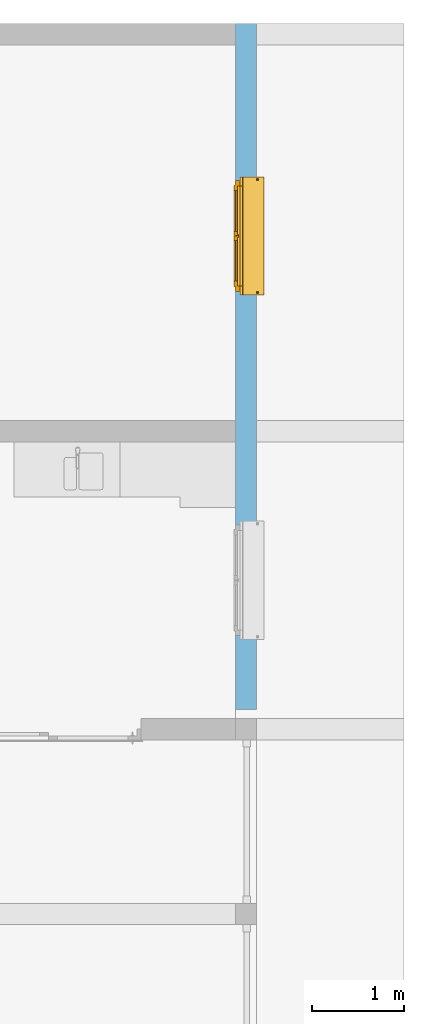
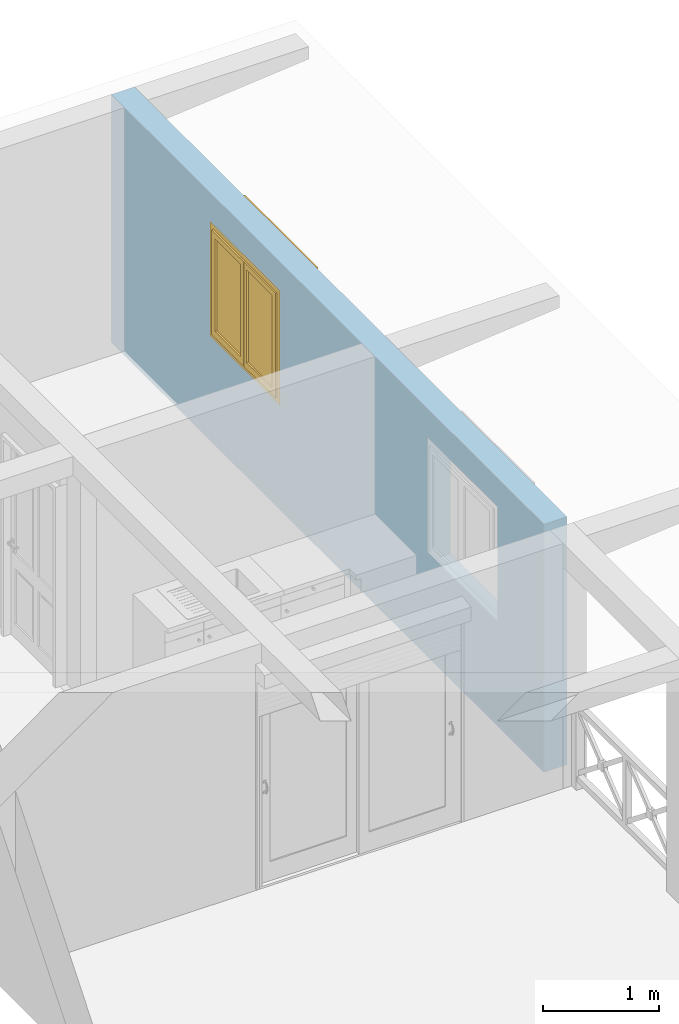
# One storey, part 9 of 13: 1 window, 2 openings, plus 1 element that does not belong to this part.
"""IFC2X3 building model written with IfcOpenShell, lengths in metres."""

from ifc_helpers import new_model, entity, si_unit, converted_unit, derived_unit, money_unit, direction, frame, origin_with_axes, place, context, subcontext, project, spatial, polyline, outline, extrude, boolean, faceted_brep, material, type_object, element, fill, save


model = new_model("IFC2X3")

# Units and contexts
model_context = context("Model", 3, precision=1e-05, world=origin_with_axes(), true_north=direction((0.0, 1.0)))
body_context = subcontext(model_context, "Body", "Model", "MODEL_VIEW")
ifc_project = project(units=[si_unit("LENGTHUNIT", "METRE"), si_unit("AREAUNIT", "SQUARE_METRE"), si_unit("VOLUMEUNIT", "CUBIC_METRE"), converted_unit("PLANEANGLEUNIT", "DEGREE", entity("IfcPlaneAngleMeasure", 0.0174532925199), si_unit("PLANEANGLEUNIT", "RADIAN"), dimensions=[0, 0, 0, 0, 0, 0, 0]), si_unit("SOLIDANGLEUNIT", "STERADIAN"), money_unit("CHF"), converted_unit("TIMEUNIT", "Year", entity("IfcTimeMeasure", 31556926.0), si_unit("TIMEUNIT", "SECOND"), dimensions=[0, 0, 1, 0, 0, 0, 0]), si_unit("MASSUNIT", "GRAM", prefix="KILO"), si_unit("THERMODYNAMICTEMPERATUREUNIT", "DEGREE_CELSIUS"), si_unit("LUMINOUSINTENSITYUNIT", "LUMEN"), si_unit("ENERGYUNIT", "JOULE", prefix="MEGA"), derived_unit("THERMALCONDUCTANCEUNIT", [(si_unit("POWERUNIT", "WATT"), 1), (si_unit("LENGTHUNIT", "METRE"), -1), (si_unit("THERMODYNAMICTEMPERATUREUNIT", "KELVIN"), -1)]), derived_unit("SPECIFICHEATCAPACITYUNIT", [(si_unit("ENERGYUNIT", "JOULE"), 1), (si_unit("MASSUNIT", "GRAM", prefix="KILO"), -1), (si_unit("THERMODYNAMICTEMPERATUREUNIT", "KELVIN"), -1)]), derived_unit("MASSDENSITYUNIT", [(si_unit("MASSUNIT", "GRAM", prefix="KILO"), 1), (si_unit("VOLUMEUNIT", "CUBIC_METRE"), -1)])], contexts=[model_context])

# Site, building, storey
site_placement = place(None, origin_with_axes())
site = spatial("IfcSite", under=ifc_project, at=site_placement, Name="Site", CompositionType="ELEMENT")
building_placement = place(site_placement, origin_with_axes())
building = spatial("IfcBuilding", under=site, at=building_placement, Name="Bâtiment", CompositionType="ELEMENT")
storey_placement = place(building_placement, origin_with_axes())
storey = spatial("IfcBuildingStorey", under=building, at=storey_placement, Name="SOUS-SOL", CompositionType="ELEMENT", Elevation=0.0)

# Wall, openings, window
ifc_material = material(Name="Hachure solide 2628782308")
wall_type = type_object("IfcWallType", Name="Hachure solide 2628782308 230", PredefinedType="NOTDEFINED")
wall_placement = place(storey_placement, frame((94.9655190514, 11.0503410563, -2.79), z_axis=(0.0, 0.0, 1.0), x_axis=(0.0, 1.0, 0.0)))
wall = element("IfcWall", 1, at=wall_placement, inside=storey, type_object=wall_type, material=ifc_material, Name="MurExt-005", context=body_context, shape_type="CSG", body=[
    boolean("DIFFERENCE", extrude(outline(polyline([(0.0, 0.0), (7.76, 0.0), (7.76, 0.23), (0.0, 0.23), (0.0, 0.0)])), origin_with_axes(), (0.0, 0.0, 1.0), 2.6), faceted_brep([(0.33, 0.0, 0.0), (0.33, 0.0, 2.6), (0.0, 0.0, 2.6), (0.0, 0.0, 0.0), (0.33, 0.23, 2.6), (0.33, 0.23, 0.0), (0.0, 0.23, 2.6), (0.0, 0.23, 0.0)], [[[0, 1, 2, 3]], [[4, 1, 0, 5]], [[1, 4, 6, 2]], [[6, 7, 3, 2]], [[5, 0, 3, 7]], [[4, 5, 7, 6]]])),
])
opening_1_placement = place(wall_placement, frame((1.73, 0.0, 1.1), z_axis=(0.0, 0.0, 1.0), x_axis=(1.0, 0.0, 0.0)))
element("IfcOpeningElement", 2, at=opening_1_placement, cuts=wall, Name="Fen-009", context=body_context, shape_type="SweptSolid", body=[
    extrude(outline(polyline([(0.6, 0.0), (-0.6, 0.0), (-0.6, -0.9), (0.0, 0.0), (0.6, -0.9), (0.6, 0.0)])), frame((0.0, 0.23, 0.0), z_axis=(0.0, -1.0, 0.0), x_axis=(-1.0, 0.0, 0.0)), (0.0, 0.0, 1.0), 0.46),
    extrude(outline(polyline([(-0.6, -1.2), (0.6, -1.2), (0.6, 0.0), (-0.6, 0.0), (-0.6, -1.2)])), frame((0.0, 0.23, 0.0), z_axis=(0.0, -1.0, 0.0), x_axis=(-1.0, 0.0, 0.0)), (0.0, 0.0, 1.0), 0.46),
    extrude(outline(polyline([(0.6, -0.1), (0.6, 0.001), (-0.6, 0.001), (-0.6, -0.1), (0.6, -0.1)])), frame((0.0, 0.18, 0.0), z_axis=(0.0, 1.0, 0.0), x_axis=(-1.0, 0.0, 0.0)), (0.0, 0.0, -1.0), 0.23),
])
opening_2_placement = place(wall_placement, frame((5.46014193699, 0.0, 1.1), z_axis=(0.0, 0.0, 1.0), x_axis=(1.0, 0.0, 0.0)))
opening_2 = element("IfcOpeningElement", 3, at=opening_2_placement, cuts=wall, Name="Fen-009", context=body_context, shape_type="SweptSolid", body=[
    extrude(outline(polyline([(0.6, 0.0), (-0.6, 0.0), (-0.6, -0.9), (0.0, 0.0), (0.6, -0.9), (0.6, 0.0)])), frame((0.0, 0.23, 0.0), z_axis=(0.0, 1.0, 0.0), x_axis=(1.0, 0.0, 0.0)), (0.0, 0.0, -1.0), 0.46),
    extrude(outline(polyline([(-0.6, -1.2), (0.6, -1.2), (0.6, 0.0), (-0.6, 0.0), (-0.6, -1.2)])), frame((0.0, 0.23, 0.0), z_axis=(0.0, 1.0, 0.0), x_axis=(1.0, 0.0, 0.0)), (0.0, 0.0, -1.0), 0.46),
    extrude(outline(polyline([(0.6, -0.1), (0.6, 0.001), (-0.6, 0.001), (-0.6, -0.1), (0.6, -0.1)])), frame((0.0, 0.18, 0.0), z_axis=(0.0, -1.0, 0.0), x_axis=(1.0, 0.0, 0.0)), (0.0, 0.0, 1.0), 0.23),
])
window_style = type_object("IfcWindowStyle", Name="Fenêtre 2v", ConstructionType="NOTDEFINED", OperationType="NOTDEFINED", ParameterTakesPrecedence=False, Sizeable=False)
window_placement = place(opening_2_placement, frame((0.6, 0.0, 0.0), z_axis=(0.0, 0.0, 1.0), x_axis=(-1.0, 0.0, 0.0)))
window = element("IfcWindow", 4, at=window_placement, inside=storey, type_object=window_style, Name="Fen-009", OverallHeight=1.2, OverallWidth=1.2, context=body_context, shape_type="Brep", body=[
    faceted_brep([(1.2, -0.23, 0.0), (1.14, -0.23, 0.0), (1.14, -0.18, 0.0), (1.2, -0.18, 0.0), (1.2, -0.23, 1.2), (0.0, -0.23, 1.2), (0.0, -0.23, 0.0), (0.06, -0.23, 0.0), (0.06, -0.23, 1.14), (1.14, -0.23, 1.14), (1.14, -0.18, 1.14), (0.06, -0.18, 1.14), (0.06, -0.18, 0.0), (0.0, -0.18, 0.0), (0.0, -0.18, 1.2), (1.2, -0.18, 1.2)], [[[0, 1, 2, 3]], [[0, 4, 5, 6, 7, 8, 9, 1]], [[1, 9, 10, 2]], [[3, 2, 10, 11, 12, 13, 14, 15]], [[4, 0, 3, 15]], [[5, 4, 15, 14]], [[6, 5, 14, 13]], [[7, 6, 13, 12]], [[8, 7, 12, 11]], [[9, 8, 11, 10]]]),
    faceted_brep([(0.06, -0.23, 0.0), (0.06, -0.23, 0.06), (0.06, -0.18, 0.06), (0.06, -0.18, 0.0), (1.14, -0.23, 0.0), (1.14, -0.23, 0.06), (1.14, -0.18, 0.06), (1.14, -0.18, 0.0)], [[[0, 1, 2, 3]], [[0, 4, 5, 1]], [[1, 5, 6, 2]], [[3, 2, 6, 7]], [[4, 0, 3, 7]], [[5, 4, 7, 6]]]),
    faceted_brep([(0.06, -0.15, 0.0), (0.06, -0.18, 0.0), (0.06, -0.18, 0.04), (0.06, -0.15, 0.02), (1.14, -0.15, 0.0), (1.14, -0.18, 0.0), (1.14, -0.18, 0.04), (1.14, -0.15, 0.02)], [[[0, 1, 2, 3]], [[0, 4, 5, 1]], [[1, 5, 6, 2]], [[3, 2, 6, 7]], [[4, 0, 3, 7]], [[5, 4, 7, 6]]]),
    faceted_brep([(0.65, -0.2275, 0.12), (1.09, -0.2275, 0.12), (1.09, -0.2275, 1.0899), (0.65, -0.2275, 1.0899), (0.65, -0.2225, 0.12), (1.09, -0.2225, 0.12), (1.09, -0.2225, 1.0899), (0.65, -0.2225, 1.0899)], [[[0, 1, 2, 3]], [[4, 5, 1, 0]], [[6, 2, 1, 5]], [[3, 2, 6, 7]], [[7, 4, 0, 3]], [[7, 6, 5, 4]]]),
    faceted_brep([(0.55, -0.2225, 1.0899), (0.11, -0.2225, 1.0899), (0.11, -0.2275, 1.0899), (0.55, -0.2275, 1.0899), (0.55, -0.2225, 0.12), (0.11, -0.2225, 0.12), (0.11, -0.2275, 0.12), (0.55, -0.2275, 0.12)], [[[0, 1, 2, 3]], [[4, 5, 1, 0]], [[5, 6, 2, 1]], [[3, 2, 6, 7]], [[7, 4, 0, 3]], [[7, 6, 5, 4]]]),
    faceted_brep([(0.55, -0.245, 1.091), (0.5975, -0.245, 1.091), (0.5975, -0.245, 1.14), (0.6025, -0.245, 1.14), (0.6025, -0.245, 1.091), (0.65, -0.245, 1.091), (0.65, -0.245, 1.0899), (1.09, -0.245, 1.0899), (1.09, -0.245, 0.12), (1.148, -0.245, 0.12), (1.148, -0.245, 1.1479), (0.052, -0.245, 1.1479), (0.052, -0.245, 0.12), (0.11, -0.245, 0.12), (0.11, -0.245, 1.0899), (0.55, -0.245, 1.0899), (0.55, -0.205, 1.091), (0.5975, -0.205, 1.091), (0.5975, -0.205, 1.1399), (0.5975, -0.23, 1.1399), (0.5975, -0.23, 1.14), (0.6025, -0.23, 1.14), (0.6025, -0.23, 1.1399), (0.6025, -0.205, 1.1399), (0.6025, -0.205, 1.091), (0.65, -0.205, 1.091), (0.65, -0.205, 1.0899), (1.09, -0.205, 1.0899), (1.09, -0.205, 0.12), (1.14, -0.205, 0.12), (1.14, -0.23, 0.12), (1.15, -0.23, 0.12), (1.15, -0.23, 1.1499), (0.05, -0.23, 1.1499), (0.05, -0.23, 0.12), (0.06, -0.205, 0.12), (0.11, -0.205, 0.12), (0.06, -0.23, 0.12), (0.11, -0.205, 1.0899), (0.55, -0.205, 1.0899), (0.06, -0.205, 1.1399), (0.06, -0.23, 1.1399), (1.14, -0.23, 1.1399), (1.14, -0.205, 1.1399)], [[[0, 1, 2, 3, 4, 5, 6, 7, 8, 9, 10, 11, 12, 13, 14, 15]], [[0, 16, 17, 1]], [[17, 18, 19, 20, 2, 1]], [[3, 2, 20, 21]], [[4, 3, 21, 22, 23, 24]], [[24, 25, 5, 4]], [[5, 25, 26, 6]], [[26, 27, 7, 6]], [[28, 8, 7, 27]], [[29, 30, 31, 9, 8, 28]], [[9, 31, 32, 10]], [[10, 32, 33, 11]], [[11, 33, 34, 12]], [[35, 36, 13, 12, 34, 37]], [[38, 14, 13, 36]], [[15, 14, 38, 39]], [[15, 39, 16, 0]], [[16, 39, 38, 36, 35, 40, 18, 17]], [[19, 18, 40, 41]], [[41, 37, 34, 33, 32, 31, 30, 42, 22, 21, 20, 19]], [[23, 22, 42, 43]], [[25, 24, 23, 43, 29, 28, 27, 26]], [[30, 29, 43, 42]], [[41, 40, 35, 37]]]),
    faceted_brep([(0.06, -0.23, 0.12), (0.05, -0.23, 0.12), (0.052, -0.245, 0.12), (0.06, -0.245, 0.12), (0.06, -0.23, 0.06), (0.5975, -0.23, 0.06), (0.5975, -0.23, 0.05), (0.05, -0.23, 0.05), (0.052, -0.245, 0.052), (0.06, -0.245, 0.06), (0.5975, -0.245, 0.052), (0.5975, -0.245, 0.06)], [[[0, 1, 2, 3]], [[4, 5, 6, 7, 1, 0]], [[2, 1, 7, 8]], [[9, 3, 2, 8, 10, 11]], [[9, 4, 0, 3]], [[11, 5, 4, 9]], [[11, 10, 6, 5]], [[6, 10, 8, 7]]]),
    faceted_brep([(0.6025, -0.23, 0.06), (0.6025, -0.23, 0.05), (0.6025, -0.245, 0.052), (0.6025, -0.245, 0.06), (1.14, -0.23, 0.06), (1.14, -0.23, 0.12), (1.15, -0.23, 0.12), (1.15, -0.23, 0.05), (1.148, -0.245, 0.052), (1.14, -0.245, 0.06), (1.148, -0.245, 0.12), (1.14, -0.245, 0.12)], [[[0, 1, 2, 3]], [[4, 5, 6, 7, 1, 0]], [[2, 1, 7, 8]], [[9, 3, 2, 8, 10, 11]], [[9, 4, 0, 3]], [[5, 4, 9, 11]], [[11, 10, 6, 5]], [[8, 7, 6, 10]]]),
    faceted_brep([(0.55, -0.205, 0.12), (0.11, -0.205, 0.12), (0.11, -0.245, 0.12), (0.55, -0.245, 0.12), (0.55, -0.205, 0.119), (0.5975, -0.205, 0.119), (0.5975, -0.205, 0.06), (0.06, -0.205, 0.06), (0.06, -0.205, 0.12), (0.06, -0.245, 0.12), (0.55, -0.245, 0.119), (0.06, -0.245, 0.06), (0.5975, -0.245, 0.06), (0.5975, -0.245, 0.119)], [[[0, 1, 2, 3]], [[4, 5, 6, 7, 8, 1, 0]], [[1, 8, 9, 2]], [[10, 3, 2, 9, 11, 12, 13]], [[10, 4, 0, 3]], [[13, 5, 4, 10]], [[13, 12, 6, 5]], [[6, 12, 11, 7]], [[8, 7, 11, 9]]]),
    faceted_brep([(0.6025, -0.205, 0.119), (0.6025, -0.205, 0.06), (0.6025, -0.245, 0.06), (0.6025, -0.245, 0.119), (0.65, -0.205, 0.119), (0.65, -0.205, 0.12), (1.09, -0.205, 0.12), (1.14, -0.205, 0.12), (1.14, -0.205, 0.06), (1.14, -0.245, 0.06), (0.65, -0.245, 0.119), (1.14, -0.245, 0.12), (1.09, -0.245, 0.12), (0.65, -0.245, 0.12)], [[[0, 1, 2, 3]], [[4, 5, 6, 7, 8, 1, 0]], [[2, 1, 8, 9]], [[10, 3, 2, 9, 11, 12, 13]], [[10, 4, 0, 3]], [[5, 4, 10, 13]], [[13, 12, 11, 7, 6, 5]], [[8, 7, 11, 9]]]),
    faceted_brep([(0.6025, -0.245, 0.119), (0.65, -0.245, 0.119), (0.65, -0.245, 1.091), (0.6025, -0.245, 1.091), (0.6025, -0.205, 0.119), (0.65, -0.205, 0.119), (0.65, -0.205, 1.091), (0.6025, -0.205, 1.091)], [[[0, 1, 2, 3]], [[4, 5, 1, 0]], [[6, 2, 1, 5]], [[3, 2, 6, 7]], [[7, 4, 0, 3]], [[7, 6, 5, 4]]]),
    faceted_brep([(0.5975, -0.205, 1.091), (0.55, -0.205, 1.091), (0.55, -0.245, 1.091), (0.5975, -0.245, 1.091), (0.5975, -0.205, 0.119), (0.55, -0.205, 0.119), (0.55, -0.245, 0.119), (0.5975, -0.245, 0.119)], [[[0, 1, 2, 3]], [[4, 5, 1, 0]], [[5, 6, 2, 1]], [[3, 2, 6, 7]], [[7, 4, 0, 3]], [[7, 6, 5, 4]]]),
    faceted_brep([(0.616666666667, -0.205, 0.06), (0.583333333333, -0.205, 0.06), (0.583333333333, -0.195, 0.06), (0.616666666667, -0.195, 0.06), (0.616666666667, -0.205, 1.14), (0.583333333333, -0.205, 1.14), (0.583333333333, -0.195, 1.14), (0.616666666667, -0.195, 1.14)], [[[0, 1, 2, 3]], [[0, 4, 5, 1]], [[1, 5, 6, 2]], [[3, 2, 6, 7]], [[4, 0, 3, 7]], [[5, 4, 7, 6]]]),
    faceted_brep([(1.24, -0.18, -0.1), (1.24, -0.18, 0.0), (-0.04, -0.18, 0.0), (-0.04, -0.18, -0.1), (1.24, 0.06, -0.1), (1.24, 0.06, -0.094), (1.24, 0.07, -0.094), (1.24, 0.07, -0.1), (1.24, 0.08, -0.1), (1.24, 0.08, -0.06), (1.24, -0.13, -0.02), (1.24, -0.134126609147, -0.0188422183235), (1.24, -0.13799671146, -0.0170005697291), (1.24, -0.141497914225, -0.014528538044), (1.24, -0.144528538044, -0.0114979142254), (1.24, -0.147000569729, -0.00799671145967), (1.24, -0.148842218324, -0.00412660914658), (1.24, -0.15, 0.0), (-0.04, -0.15, 0.0), (-0.04, -0.148842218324, -0.00412660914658), (-0.04, -0.147000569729, -0.00799671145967), (-0.04, -0.144528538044, -0.0114979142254), (-0.04, -0.141497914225, -0.014528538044), (-0.04, -0.13799671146, -0.0170005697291), (-0.04, -0.134126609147, -0.0188422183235), (-0.04, -0.13, -0.02), (-0.04, 0.08, -0.06), (-0.04, 0.08, -0.1), (-0.04, 0.07, -0.1), (-0.04, 0.07, -0.094), (-0.04, 0.06, -0.094), (-0.04, 0.06, -0.1)], [[[0, 1, 2, 3]], [[0, 4, 5, 6, 7, 8, 9, 10, 11, 12, 13, 14, 15, 16, 17, 1]], [[1, 17, 18, 2]], [[3, 2, 18, 19, 20, 21, 22, 23, 24, 25, 26, 27, 28, 29, 30, 31]], [[4, 0, 3, 31]], [[5, 4, 31, 30]], [[6, 5, 30, 29]], [[7, 6, 29, 28]], [[8, 7, 28, 27]], [[9, 8, 27, 26]], [[10, 9, 26, 25]], [[11, 10, 25, 24]], [[12, 11, 24, 23]], [[13, 12, 23, 22]], [[14, 13, 22, 21]], [[15, 14, 21, 20]], [[16, 15, 20, 19]], [[17, 16, 19, 18]]]),
    faceted_brep([(-0.025, 0.0, 1.35), (-0.025, 0.0, 1.2), (-0.022, 0.0, 1.2), (-0.022, 0.0, 1.35), (-0.025, 0.13, 1.33862647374), (-0.025, 0.13, 1.18), (-0.025, 0.127, 1.18), (-0.025, 0.021, 1.18), (-0.025, 0.021, 1.2), (-0.022, 0.021, 1.2), (-0.022, 0.021, 1.18), (-0.022, 0.127, 1.18), (-0.022, 0.13, 1.18), (-0.022, 0.13, 1.33862647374)], [[[0, 1, 2, 3]], [[0, 4, 5, 6, 7, 8, 1]], [[1, 8, 9, 2]], [[3, 2, 9, 10, 11, 12, 13]], [[4, 0, 3, 13]], [[5, 4, 13, 12]], [[6, 5, 12, 11]], [[7, 6, 11, 10]], [[8, 7, 10, 9]]]),
    faceted_brep([(1.222, 0.018, 1.203), (1.222, 0.127, 1.203), (-0.022, 0.127, 1.203), (-0.022, 0.018, 1.203), (1.222, 0.018, 1.2), (1.222, 0.127, 1.2), (1.222, 0.127, 1.18), (1.222, 0.13, 1.18), (1.222, 0.13, 1.33862647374), (1.222, 0.0, 1.35), (1.222, 0.0, 1.34698854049), (1.222, 0.127, 1.33587748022), (-0.022, 0.127, 1.33587748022), (-0.022, 0.0, 1.34698854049), (-0.022, 0.0, 1.35), (-0.022, 0.13, 1.33862647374), (-0.022, 0.13, 1.18), (-0.022, 0.127, 1.18), (-0.022, 0.127, 1.2), (-0.022, 0.018, 1.2)], [[[0, 1, 2, 3]], [[4, 5, 6, 7, 8, 9, 10, 11, 1, 0]], [[12, 2, 1, 11]], [[3, 2, 12, 13, 14, 15, 16, 17, 18, 19]], [[19, 4, 0, 3]], [[19, 18, 5, 4]], [[6, 5, 18, 17]], [[7, 6, 17, 16]], [[8, 7, 16, 15]], [[9, 8, 15, 14]], [[13, 10, 9, 14]], [[13, 12, 11, 10]]]),
    faceted_brep([(1.222, 0.0, 1.35), (1.222, 0.0, 1.2), (1.225, 0.0, 1.2), (1.225, 0.0, 1.35), (1.222, 0.13, 1.33862647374), (1.222, 0.13, 1.18), (1.222, 0.127, 1.18), (1.222, 0.021, 1.18), (1.222, 0.021, 1.2), (1.225, 0.021, 1.2), (1.225, 0.021, 1.18), (1.225, 0.127, 1.18), (1.225, 0.13, 1.18), (1.225, 0.13, 1.33862647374)], [[[0, 1, 2, 3]], [[0, 4, 5, 6, 7, 8, 1]], [[1, 8, 9, 2]], [[3, 2, 9, 10, 11, 12, 13]], [[4, 0, 3, 13]], [[5, 4, 13, 12]], [[6, 5, 12, 11]], [[7, 6, 11, 10]], [[8, 7, 10, 9]]]),
    faceted_brep([(0.0, 0.021, 1.18), (0.0, 0.021, 0.0), (-0.025, 0.021, 0.0), (-0.025, 0.021, 1.18), (0.0, 0.018, 1.18), (0.0, 0.018, 0.0), (-0.022, 0.018, 0.0), (-0.022, 0.003, 0.0), (0.0, 0.003, 0.0), (0.0, 0.0, 0.0), (-0.025, 0.0, 0.0), (-0.025, 0.0, 1.18), (0.0, 0.0, 1.18), (0.0, 0.003, 1.18), (-0.022, 0.003, 1.18), (-0.022, 0.018, 1.18)], [[[0, 1, 2, 3]], [[4, 5, 1, 0]], [[1, 5, 6, 7, 8, 9, 10, 2]], [[3, 2, 10, 11]], [[0, 3, 11, 12, 13, 14, 15, 4]], [[15, 6, 5, 4]], [[14, 7, 6, 15]], [[13, 8, 7, 14]], [[12, 9, 8, 13]], [[11, 10, 9, 12]]]),
    faceted_brep([(0.0, 0.003, 0.003), (0.0, 0.003, 0.0), (0.0, 0.018, 0.0), (0.0, 0.018, 0.003), (-0.022, 0.003, 0.003), (-0.022, 0.003, 0.0), (-0.022, 0.018, 0.0), (-0.022, 0.018, 0.003)], [[[0, 1, 2, 3]], [[4, 5, 1, 0]], [[1, 5, 6, 2]], [[3, 2, 6, 7]], [[0, 3, 7, 4]], [[7, 6, 5, 4]]]),
    faceted_brep([(0.0, 0.021, 1.2), (0.0, 0.021, 1.18), (-0.025, 0.021, 1.18), (-0.025, 0.021, 1.2), (0.0, 0.018, 1.2), (0.0, 0.018, 1.18), (-0.022, 0.018, 1.18), (-0.022, 0.003, 1.18), (0.0, 0.003, 1.18), (0.0, 0.0, 1.18), (-0.025, 0.0, 1.18), (-0.025, 0.0, 1.2), (0.0, 0.0, 1.2), (0.0, 0.003, 1.2), (-0.022, 0.003, 1.2), (-0.022, 0.018, 1.2)], [[[0, 1, 2, 3]], [[4, 5, 1, 0]], [[1, 5, 6, 7, 8, 9, 10, 2]], [[3, 2, 10, 11]], [[0, 3, 11, 12, 13, 14, 15, 4]], [[15, 6, 5, 4]], [[14, 7, 6, 15]], [[13, 8, 7, 14]], [[12, 9, 8, 13]], [[11, 10, 9, 12]]]),
    faceted_brep([(1.2, 0.021, 1.18), (1.225, 0.021, 1.18), (1.225, 0.021, 0.0), (1.2, 0.021, 0.0), (1.2, 0.018, 1.18), (1.222, 0.018, 1.18), (1.222, 0.003, 1.18), (1.2, 0.003, 1.18), (1.2, 0.0, 1.18), (1.225, 0.0, 1.18), (1.225, 0.0, 0.0), (1.2, 0.0, 0.0), (1.2, 0.003, 0.0), (1.222, 0.003, 0.0), (1.222, 0.018, 0.0), (1.2, 0.018, 0.0)], [[[0, 1, 2, 3]], [[0, 4, 5, 6, 7, 8, 9, 1]], [[1, 9, 10, 2]], [[3, 2, 10, 11, 12, 13, 14, 15]], [[4, 0, 3, 15]], [[5, 4, 15, 14]], [[6, 5, 14, 13]], [[7, 6, 13, 12]], [[8, 7, 12, 11]], [[9, 8, 11, 10]]]),
    faceted_brep([(1.2, 0.003, 0.003), (1.2, 0.018, 0.003), (1.2, 0.018, 0.0), (1.2, 0.003, 0.0), (1.222, 0.003, 0.003), (1.222, 0.018, 0.003), (1.222, 0.018, 0.0), (1.222, 0.003, 0.0)], [[[0, 1, 2, 3]], [[0, 4, 5, 1]], [[1, 5, 6, 2]], [[3, 2, 6, 7]], [[4, 0, 3, 7]], [[5, 4, 7, 6]]]),
    faceted_brep([(1.2, 0.021, 1.2), (1.225, 0.021, 1.2), (1.225, 0.021, 1.18), (1.2, 0.021, 1.18), (1.2, 0.018, 1.2), (1.222, 0.018, 1.2), (1.222, 0.003, 1.2), (1.2, 0.003, 1.2), (1.2, 0.0, 1.2), (1.225, 0.0, 1.2), (1.225, 0.0, 1.18), (1.2, 0.0, 1.18), (1.2, 0.003, 1.18), (1.222, 0.003, 1.18), (1.222, 0.018, 1.18), (1.2, 0.018, 1.18)], [[[0, 1, 2, 3]], [[0, 4, 5, 6, 7, 8, 9, 1]], [[1, 9, 10, 2]], [[3, 2, 10, 11, 12, 13, 14, 15]], [[4, 0, 3, 15]], [[5, 4, 15, 14]], [[6, 5, 14, 13]], [[7, 6, 13, 12]], [[8, 7, 12, 11]], [[9, 8, 11, 10]]]),
    faceted_brep([(-0.022, 0.0113089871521, 1.26006647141), (-0.022, 0.0105, 1.26931323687), (-0.022, 0.0113089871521, 1.27856000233), (-0.022, 0.0137113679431, 1.2875258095), (-0.022, 0.0176341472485, 1.29593823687), (-0.022, 0.0229581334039, 1.30354167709), (-0.022, 0.0295215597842, 1.31010510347), (-0.022, 0.037125, 1.31542908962), (-0.022, 0.0455374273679, 1.31935186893), (-0.022, 0.0545032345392, 1.32175424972), (-0.022, 0.06375, 1.32256323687), (-0.022, 0.0729967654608, 1.32175424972), (-0.022, 0.0819625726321, 1.31935186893), (-0.022, 0.090375, 1.31542908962), (-0.022, 0.0979784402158, 1.31010510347), (-0.022, 0.104541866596, 1.30354167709), (-0.022, 0.109865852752, 1.29593823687), (-0.022, 0.113788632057, 1.2875258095), (-0.022, 0.116191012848, 1.27856000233), (-0.022, 0.117, 1.26931323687), (-0.022, 0.116191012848, 1.26006647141), (-0.022, 0.113788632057, 1.25110066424), (-0.022, 0.109865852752, 1.24268823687), (-0.022, 0.104541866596, 1.23508479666), (-0.022, 0.0979784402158, 1.22852137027), (-0.022, 0.090375, 1.22319738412), (-0.022, 0.0819625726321, 1.21927460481), (-0.022, 0.0729967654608, 1.21687222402), (-0.022, 0.06375, 1.21606323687), (-0.022, 0.0545032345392, 1.21687222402), (-0.022, 0.0455374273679, 1.21927460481), (-0.022, 0.037125, 1.22319738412), (-0.022, 0.0295215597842, 1.22852137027), (-0.022, 0.0229581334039, 1.23508479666), (-0.022, 0.0176341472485, 1.24268823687), (-0.022, 0.0137113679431, 1.25110066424), (1.222, 0.0113089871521, 1.26006647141), (1.222, 0.0105, 1.26931323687), (1.222, 0.0113089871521, 1.27856000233), (1.222, 0.0137113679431, 1.2875258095), (1.222, 0.0176341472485, 1.29593823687), (1.222, 0.0229581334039, 1.30354167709), (1.222, 0.0295215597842, 1.31010510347), (1.222, 0.037125, 1.31542908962), (1.222, 0.0455374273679, 1.31935186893), (1.222, 0.0545032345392, 1.32175424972), (1.222, 0.06375, 1.32256323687), (1.222, 0.0729967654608, 1.32175424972), (1.222, 0.0819625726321, 1.31935186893), (1.222, 0.090375, 1.31542908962), (1.222, 0.0979784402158, 1.31010510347), (1.222, 0.104541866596, 1.30354167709), (1.222, 0.109865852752, 1.29593823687), (1.222, 0.113788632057, 1.2875258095), (1.222, 0.116191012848, 1.27856000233), (1.222, 0.117, 1.26931323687), (1.222, 0.116191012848, 1.26006647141), (1.222, 0.113788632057, 1.25110066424), (1.222, 0.109865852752, 1.24268823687), (1.222, 0.104541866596, 1.23508479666), (1.222, 0.0979784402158, 1.22852137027), (1.222, 0.090375, 1.22319738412), (1.222, 0.0819625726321, 1.21927460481), (1.222, 0.0729967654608, 1.21687222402), (1.222, 0.06375, 1.21606323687), (1.222, 0.0545032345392, 1.21687222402), (1.222, 0.0455374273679, 1.21927460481), (1.222, 0.037125, 1.22319738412), (1.222, 0.0295215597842, 1.22852137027), (1.222, 0.0229581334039, 1.23508479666), (1.222, 0.0176341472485, 1.24268823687), (1.222, 0.0137113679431, 1.25110066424)], [[[0, 1, 2, 3, 4, 5, 6, 7, 8, 9, 10, 11, 12, 13, 14, 15, 16, 17, 18, 19, 20, 21, 22, 23, 24, 25, 26, 27, 28, 29, 30, 31, 32, 33, 34, 35]], [[0, 36, 37, 1]], [[1, 37, 38, 2]], [[2, 38, 39, 3]], [[3, 39, 40, 4]], [[4, 40, 41, 5]], [[5, 41, 42, 6]], [[6, 42, 43, 7]], [[7, 43, 44, 8]], [[8, 44, 45, 9]], [[9, 45, 46, 10]], [[10, 46, 47, 11]], [[11, 47, 48, 12]], [[12, 48, 49, 13]], [[13, 49, 50, 14]], [[14, 50, 51, 15]], [[15, 51, 52, 16]], [[16, 52, 53, 17]], [[17, 53, 54, 18]], [[18, 54, 55, 19]], [[19, 55, 56, 20]], [[20, 56, 57, 21]], [[21, 57, 58, 22]], [[22, 58, 59, 23]], [[23, 59, 60, 24]], [[24, 60, 61, 25]], [[25, 61, 62, 26]], [[26, 62, 63, 27]], [[27, 63, 64, 28]], [[28, 64, 65, 29]], [[29, 65, 66, 30]], [[30, 66, 67, 31]], [[31, 67, 68, 32]], [[32, 68, 69, 33]], [[33, 69, 70, 34]], [[34, 70, 71, 35]], [[35, 71, 36, 0]], [[36, 71, 70, 69, 68, 67, 66, 65, 64, 63, 62, 61, 60, 59, 58, 57, 56, 55, 54, 53, 52, 51, 50, 49, 48, 47, 46, 45, 44, 43, 42, 41, 40, 39, 38, 37]]]),
    faceted_brep([(1.222, 0.00966666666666, 1.26931323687), (-0.022, 0.00966666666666, 1.26931323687), (-0.022, 0.00966666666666, 1.26666666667), (1.222, 0.00966666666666, 1.26666666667), (1.222, 0.0146666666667, 1.26931323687), (-0.022, 0.0146666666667, 1.26931323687), (-0.022, 0.0146666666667, 1.26666666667), (-0.022, 0.013, 1.25), (-0.022, 0.008, 1.25), (1.222, 0.008, 1.25), (1.222, 0.013, 1.25), (1.222, 0.0146666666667, 1.26666666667)], [[[0, 1, 2, 3]], [[1, 0, 4, 5]], [[1, 5, 6, 7, 8, 2]], [[2, 8, 9, 3]], [[4, 0, 3, 9, 10, 11]], [[6, 5, 4, 11]], [[7, 6, 11, 10]], [[8, 7, 10, 9]]]),
    faceted_brep([(-0.022, 0.008, 1.25), (-0.022, 0.00966666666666, 1.23333333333), (1.222, 0.00966666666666, 1.23333333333), (1.222, 0.008, 1.25), (-0.022, 0.013, 1.25), (-0.022, 0.0146666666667, 1.23333333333), (-0.022, 0.0146666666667, 1.21666666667), (-0.022, 0.013, 1.2), (-0.022, 0.008, 1.2), (-0.022, 0.00966666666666, 1.21666666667), (1.222, 0.00966666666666, 1.21666666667), (1.222, 0.008, 1.2), (1.222, 0.013, 1.2), (1.222, 0.0146666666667, 1.21666666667), (1.222, 0.0146666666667, 1.23333333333), (1.222, 0.013, 1.25)], [[[0, 1, 2, 3]], [[0, 4, 5, 6, 7, 8, 9, 1]], [[1, 9, 10, 2]], [[3, 2, 10, 11, 12, 13, 14, 15]], [[4, 0, 3, 15]], [[5, 4, 15, 14]], [[6, 5, 14, 13]], [[7, 6, 13, 12]], [[8, 7, 12, 11]], [[9, 8, 11, 10]]]),
])
fill(opening_2, window)

save(model, "model.ifc")
